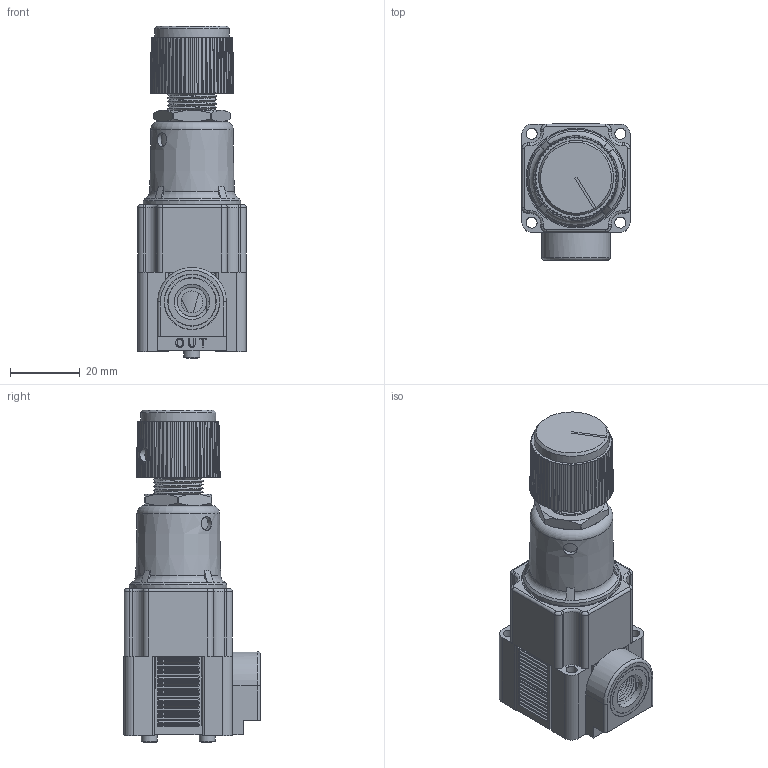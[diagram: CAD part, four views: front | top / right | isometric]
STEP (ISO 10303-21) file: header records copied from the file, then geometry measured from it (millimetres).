
FILE_DESCRIPTION(/* description */ (''),/* implementation_level */ '2;1');
FILE_NAME(/* name */ 'K:\Normteile INVENTOR\Air-Logic\Regulators\R6000\R 6___ 1 1''8-27 NPT Threads Out.igs.ipt.stp',/* time_stamp */ '2020-05-27T10:56:53+02:00',/* author */ ('Paul'),/* organization */ (''),/* preprocessor_version */ 'ST-DEVELOPER v18',/* originating_system */ 'Autodesk Inventor 2020',/* authorisation */ '');
FILE_SCHEMA (('AUTOMOTIVE_DESIGN { 1 0 10303 214 3 1 1 }'));
Length unit declared in the file: inch
Products named in the file (1): R 6___ 1 1'8-27 NPT Threads Out.igs
Bounding box: 31.19 x 39.06 x 95.02 mm (x, y, z)
Volume: 58415.1 mm3; surface area: 18592 mm2
Topology: 1 solids, 1 shells, 1018 faces, 2645 edges, 1708 vertices
Faces by surface type: plane 490, cylinder 366, cone 83, bspline 47, torus 32
Full cylindrical faces by diameter (mm): 1.194 x1, 2.032 x1, 3.124 x2, 3.175 x8, 3.988 x1, 4.064 x1, 4.521 x2, 6.248 x1, 8.382 x2, 8.458 x7, 9.169 x1, 9.652 x1, 10.163 x7, 12.903 x1, 13.716 x1, 13.872 x1, 15.707 x1, 15.913 x1, 19.406 x1, 21.476 x1, 27.94 x1, 28.575 x1
Entity records: 40337 total; most frequent: CARTESIAN_POINT 13945, DIRECTION 5442, ORIENTED_EDGE 5290, EDGE_CURVE 2645, AXIS2_PLACEMENT_3D 2099, VERTEX_POINT 1708, LINE 1244, VECTOR 1244
